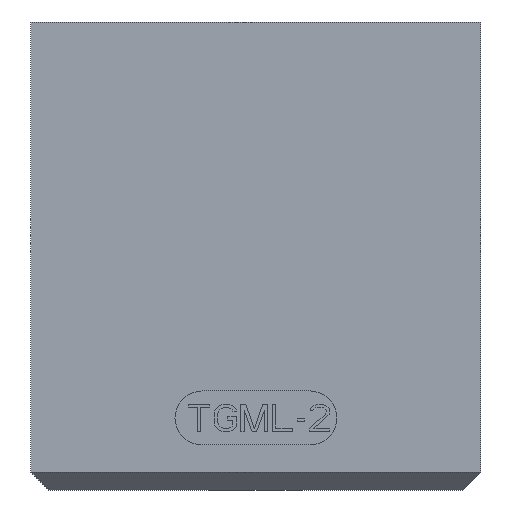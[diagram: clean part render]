
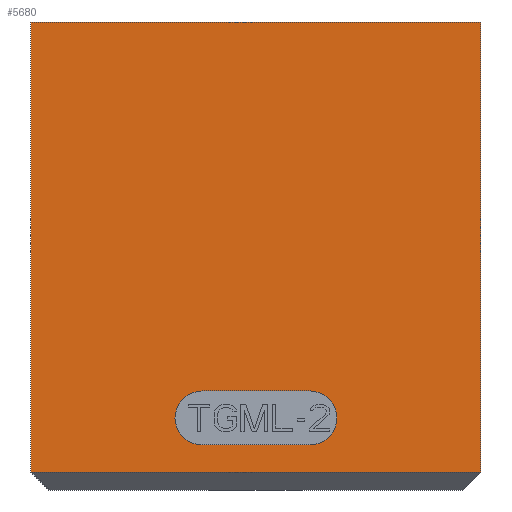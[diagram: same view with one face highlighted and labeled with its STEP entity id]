
A CAD part, front view. The second image highlights one B-rep face of the part: STEP entity #5680.
In plain terms, the highlighted planar face has unit normal (0, -1, 0).
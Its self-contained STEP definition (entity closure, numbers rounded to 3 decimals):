
#664=DIRECTION('',(1.,0.,0.));
#665=VECTOR('',#664,25.);
#666=CARTESIAN_POINT('',(-3.2,-5.,6.5));
#667=LINE('',#666,#665);
#729=DIRECTION('',(0.,0.,1.));
#730=VECTOR('',#729,25.);
#731=CARTESIAN_POINT('',(21.8,-5.,-18.5));
#732=LINE('',#731,#730);
#860=DIRECTION('',(-1.,0.,0.));
#861=VECTOR('',#860,25.);
#862=CARTESIAN_POINT('',(21.8,-5.,-18.5));
#863=LINE('',#862,#861);
#867=DIRECTION('',(0.,0.,1.));
#868=VECTOR('',#867,25.);
#869=CARTESIAN_POINT('',(-3.2,-5.,-18.5));
#870=LINE('',#869,#868);
#874=CARTESIAN_POINT('',(6.3,-5.,-15.5));
#875=DIRECTION('',(0.,-1.,0.));
#876=DIRECTION('',(0.,0.,1.));
#877=AXIS2_PLACEMENT_3D('',#874,#875,#876);
#882=DIRECTION('',(1.,0.,0.));
#883=VECTOR('',#882,6.);
#884=CARTESIAN_POINT('',(6.3,-5.,-17.));
#885=LINE('',#884,#883);
#889=CARTESIAN_POINT('',(12.3,-5.,-15.5));
#890=DIRECTION('',(0.,-1.,0.));
#891=DIRECTION('',(0.,0.,-1.));
#892=AXIS2_PLACEMENT_3D('',#889,#890,#891);
#897=DIRECTION('',(-1.,0.,0.));
#898=VECTOR('',#897,6.);
#899=CARTESIAN_POINT('',(12.3,-5.,-14.));
#900=LINE('',#899,#898);
#3795=CARTESIAN_POINT('',(-3.2,-5.,6.5));
#3797=VERTEX_POINT('',#3795);
#3798=CARTESIAN_POINT('',(21.8,-5.,6.5));
#3799=VERTEX_POINT('',#3798);
#3832=CARTESIAN_POINT('',(-3.2,-5.,-18.5));
#3833=VERTEX_POINT('',#3832);
#3838=CARTESIAN_POINT('',(21.8,-5.,-18.5));
#3839=VERTEX_POINT('',#3838);
#3870=CARTESIAN_POINT('',(6.3,-5.,-14.));
#3871=CARTESIAN_POINT('',(6.3,-5.,-17.));
#3872=VERTEX_POINT('',#3870);
#3873=VERTEX_POINT('',#3871);
#3874=CARTESIAN_POINT('',(12.3,-5.,-17.));
#3875=VERTEX_POINT('',#3874);
#3876=CARTESIAN_POINT('',(12.3,-5.,-14.));
#3877=VERTEX_POINT('',#3876);
#5659=CARTESIAN_POINT('',(-3.2,-5.,-19.5));
#5660=DIRECTION('',(0.,-1.,0.));
#5661=DIRECTION('',(1.,0.,0.));
#5662=AXIS2_PLACEMENT_3D('',#5659,#5660,#5661);
#5663=PLANE('',#5662);
#5664=ORIENTED_EDGE('',*,*,#5653,.T.);
#5665=ORIENTED_EDGE('',*,*,#5628,.T.);
#5666=ORIENTED_EDGE('',*,*,#5518,.T.);
#5667=ORIENTED_EDGE('',*,*,#5540,.F.);
#5668=EDGE_LOOP('',(#5664,#5665,#5666,#5667));
#5669=FACE_OUTER_BOUND('',#5668,.F.);
#5671=ORIENTED_EDGE('',*,*,#5670,.T.);
#5673=ORIENTED_EDGE('',*,*,#5672,.T.);
#5675=ORIENTED_EDGE('',*,*,#5674,.T.);
#5677=ORIENTED_EDGE('',*,*,#5676,.T.);
#5678=EDGE_LOOP('',(#5671,#5673,#5675,#5677));
#5679=FACE_BOUND('',#5678,.F.);
#878=CIRCLE('',#877,1.5);
#893=CIRCLE('',#892,1.5);
#5518=EDGE_CURVE('',#3797,#3799,#667,.T.);
#5540=EDGE_CURVE('',#3839,#3799,#732,.T.);
#5628=EDGE_CURVE('',#3833,#3797,#870,.T.);
#5653=EDGE_CURVE('',#3839,#3833,#863,.T.);
#5670=EDGE_CURVE('',#3872,#3873,#878,.T.);
#5672=EDGE_CURVE('',#3873,#3875,#885,.T.);
#5674=EDGE_CURVE('',#3875,#3877,#893,.T.);
#5676=EDGE_CURVE('',#3877,#3872,#900,.T.);
#5680=ADVANCED_FACE('',(#5669,#5679),#5663,.T.);
